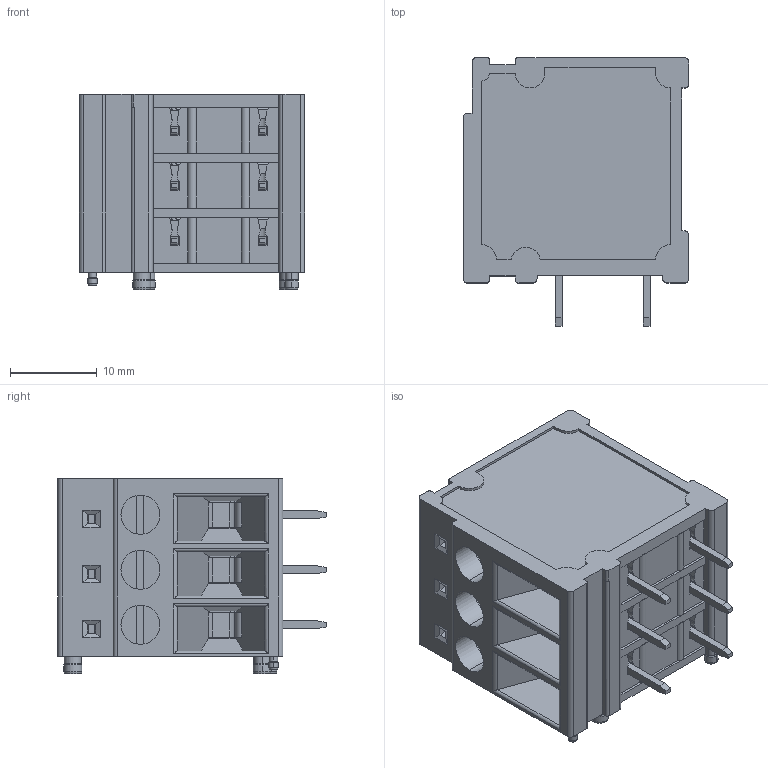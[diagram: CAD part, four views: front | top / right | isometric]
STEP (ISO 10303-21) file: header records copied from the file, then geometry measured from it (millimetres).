
FILE_DESCRIPTION((''),'2;1');
FILE_NAME('KH0305X10000G','2021-04-06T',('renkang.li'),(''),'CREO PARAMETRIC BY PTC INC, 2016260','CREO PARAMETRIC BY PTC INC, 2016260','');
FILE_SCHEMA(('CONFIG_CONTROL_DESIGN'));
Products named in the file (1): KH0305X10000G
Bounding box: 26 x 31 x 22.55 mm (x, y, z)
Volume: 6902.7 mm3; surface area: 11803.8 mm2
Topology: 7 solids, 37 shells, 1560 faces, 4123 edges, 2651 vertices
Faces by surface type: plane 862, cylinder 492, cone 146, bspline 30, torus 30
Entity records: 63370 total; most frequent: CARTESIAN_POINT 24310, ORIENTED_EDGE 8246, DIRECTION 8017, EDGE_CURVE 4123, VECTOR 2771, LINE 2771, VERTEX_POINT 2651, AXIS2_PLACEMENT_3D 2623
